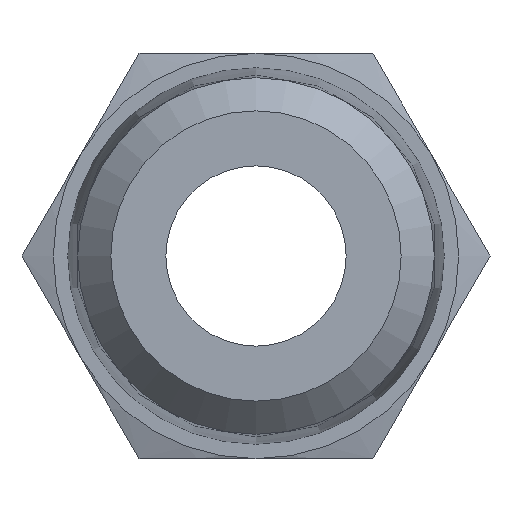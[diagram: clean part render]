
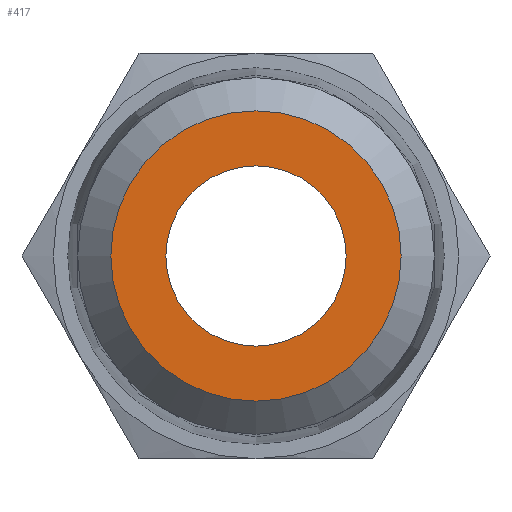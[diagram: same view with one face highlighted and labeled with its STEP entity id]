
A CAD part, left-side view. The second image highlights one B-rep face of the part: STEP entity #417.
In plain terms, the highlighted planar face has unit normal (-1, 0, 0).
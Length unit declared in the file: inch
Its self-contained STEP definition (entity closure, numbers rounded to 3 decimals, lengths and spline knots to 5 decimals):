
#37=PLANE('',#472);
#57=CIRCLE('',#473,0.20127);
#58=CIRCLE('',#474,0.125);
#102=ORIENTED_EDGE('',*,*,#212,.F.);
#103=ORIENTED_EDGE('',*,*,#213,.T.);
#212=EDGE_CURVE('',#259,#259,#57,.T.);
#213=EDGE_CURVE('',#260,#260,#58,.T.);
#259=VERTEX_POINT('',#756);
#260=VERTEX_POINT('',#758);
#308=EDGE_LOOP('',(#102));
#309=EDGE_LOOP('',(#103));
#354=FACE_BOUND('',#308,.T.);
#355=FACE_BOUND('',#309,.T.);
#417=ADVANCED_FACE('',(#354,#355),#37,.F.);
#472=AXIS2_PLACEMENT_3D('',#754,#551,#552);
#473=AXIS2_PLACEMENT_3D('',#755,#553,#554);
#474=AXIS2_PLACEMENT_3D('',#757,#555,#556);
#551=DIRECTION('',(1.,0.,0.));
#552=DIRECTION('',(0.,0.,-1.));
#553=DIRECTION('',(1.,0.,0.));
#554=DIRECTION('',(0.,0.,-1.));
#555=DIRECTION('',(1.,0.,0.));
#556=DIRECTION('',(0.,0.,-1.));
#754=CARTESIAN_POINT('',(0.,0.,0.));
#755=CARTESIAN_POINT('',(0.,0.,0.));
#756=CARTESIAN_POINT('',(0.,0.,-0.20127));
#757=CARTESIAN_POINT('',(0.,0.,0.));
#758=CARTESIAN_POINT('',(0.,0.,-0.125));
